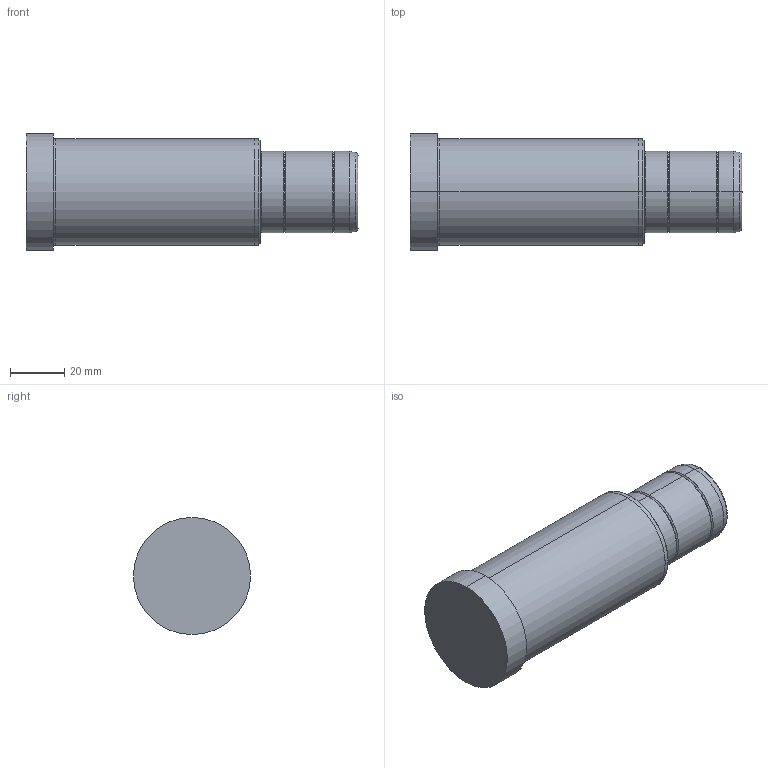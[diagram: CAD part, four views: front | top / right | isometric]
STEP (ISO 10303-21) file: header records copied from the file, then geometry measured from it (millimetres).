
FILE_DESCRIPTION( ( 'STEP AP203' ), '1' );
FILE_NAME( 'C:/Projects/D02 - 30x86x36.step', '2002-12-31T22:44:12', ( ' ' ), ( ' ' ), 'XStep 1.0', ' ', ' ' );
FILE_SCHEMA( ( 'CONFIG_CONTROL_DESIGN' ) );
Length unit declared in the file: metre
Products named in the file (1): 1
Bounding box: 122 x 43 x 43 mm (x, y, z)
Volume: 130642.6 mm3; surface area: 16919.9 mm2
Topology: 1 solids, 1 shells, 36 faces, 70 edges, 40 vertices
Faces by surface type: bspline 18, revolution 18
Entity records: 1127 total; most frequent: CARTESIAN_POINT 417, ORIENTED_EDGE 140, DIRECTION 118, EDGE_CURVE 70, AXIS2_PLACEMENT_3D 41, EDGE_LOOP 40, VERTEX_POINT 40, CIRCLE 40
